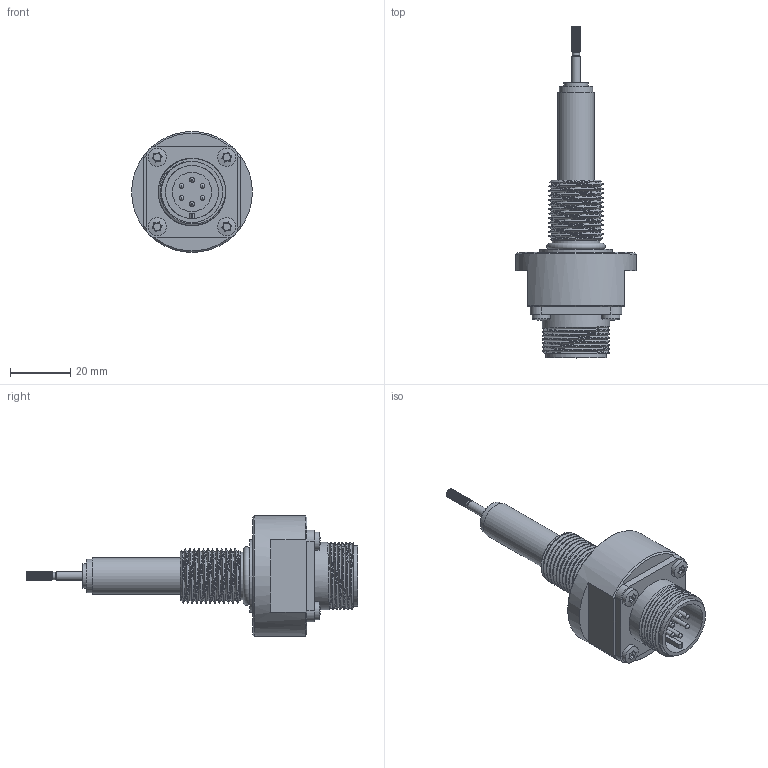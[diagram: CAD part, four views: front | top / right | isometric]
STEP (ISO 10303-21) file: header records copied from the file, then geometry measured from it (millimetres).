
FILE_DESCRIPTION( ( 'Unknown' ), '1' );
FILE_NAME( 'N:/Engineering/CAD/LVDT/HYD/Kunden-3D-Modell/SM5-HYD-18-S.stp', 'Unknown', ( 'Unknown' ), ( 'Unknown' ), 'PSStep 17.0.49', 'Unknown', ' ' );
FILE_SCHEMA( ( 'AUTOMOTIVE_DESIGN { 1 0 10303 214 1 1 1 1 }' ) );
Length unit declared in the file: millimetre
Products named in the file (9): Assem1; Endkappe; Innenrohr_SM5-HYD; Kernverlängerung_SM5-HYD; SM-HYD-Flansch_M18_vereinfacht; O-Ring_15,4x2,1; MIL-Stecker_2; DIN7985_M3-6_Torx; Aussenrohr_SM5-HYD_vereinfacht
Assembly tree (11 placements, depth 2):
  Assem1
    Endkappe
    Innenrohr_SM5-HYD
    Kernverlängerung_SM5-HYD
    SM-HYD-Flansch_M18_vereinfacht
    O-Ring_15,4x2,1
    MIL-Stecker_2
    DIN7985_M3-6_Torx  x4
    Aussenrohr_SM5-HYD_vereinfacht
Bounding box: 40 x 109.9 x 40 mm (x, y, z)
Volume: 35602 mm3; surface area: 20112.7 mm2
Topology: 11 solids, 11 shells, 255 faces, 589 edges, 385 vertices
Faces by surface type: plane 132, cylinder 82, cone 22, bspline 14, sphere 4, torus 1
Full cylindrical faces by diameter (mm): 1.4 x6, 1.6 x6, 2.013 x1, 2.4 x1, 2.5 x8, 3 x9, 4 x1, 6 x6, 8 x1, 10 x1, 11 x2, 12 x3, 13 x1, 15.8 x1, 17.6 x1, 18.8 x1, 20.2 x1, 22.3 x7, 24 x1, 40 x1
Entity records: 13563 total; most frequent: CARTESIAN_POINT 8176, DIRECTION 792, ORIENTED_EDGE 656, AXIS2_PLACEMENT_3D 336, EDGE_CURVE 328, EDGE_LOOP 289, VERTEX_POINT 255, FACE_OUTER_BOUND 236
